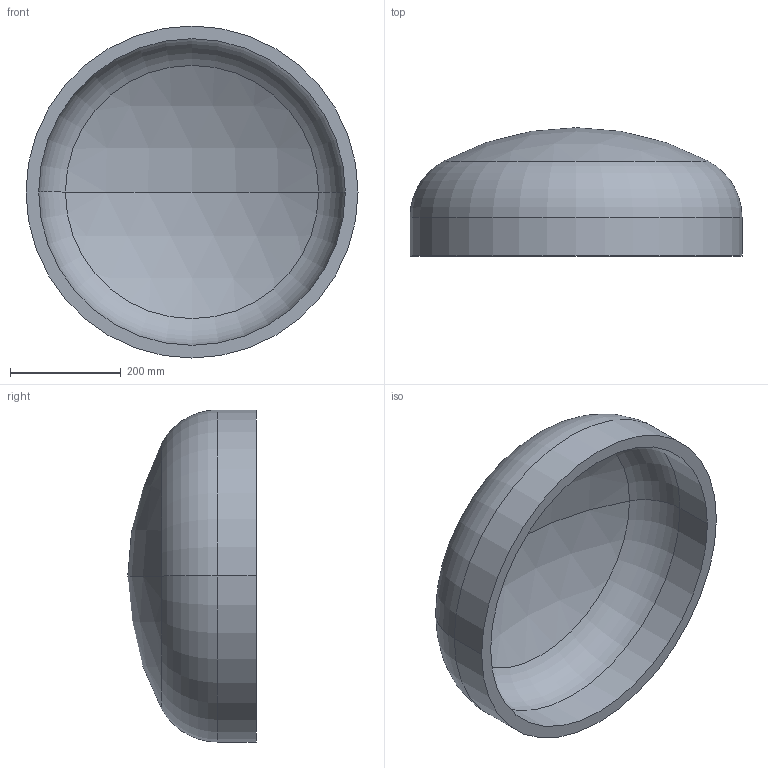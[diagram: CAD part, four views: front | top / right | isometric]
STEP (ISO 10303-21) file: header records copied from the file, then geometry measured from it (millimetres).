
FILE_DESCRIPTION (( 'STEP AP203' ), '1' );
FILE_NAME ('DIN 28013 Korbbogenform_-_Boden DIN 28013 - 600 x 70 - I - s=23.step', '2016-07-01T07:58:36', ( '' ), ( '' ), 'SwSTEP 2.0', 'SolidWorks 2013', '' );
FILE_SCHEMA (( 'CONFIG_CONTROL_DESIGN' ));
Length unit declared in the file: millimetre
Products named in the file (1): DIN 28013 Korbbogenform_-_Boden DIN 28013 - 600 x 70 - I - s=23
Bounding box: 600 x 231.94 x 600 mm (x, y, z)
Volume: 11480622 mm3; surface area: 1041114.7 mm2
Topology: 1 solids, 1 shells, 13 faces, 24 edges, 14 vertices
Faces by surface type: torus 4, cylinder 4, sphere 4, plane 1
Entity records: 407 total; most frequent: DIRECTION 72, CARTESIAN_POINT 52, ORIENTED_EDGE 48, AXIS2_PLACEMENT_3D 34, EDGE_CURVE 24, CIRCLE 20, VERTEX_POINT 14, EDGE_LOOP 14
